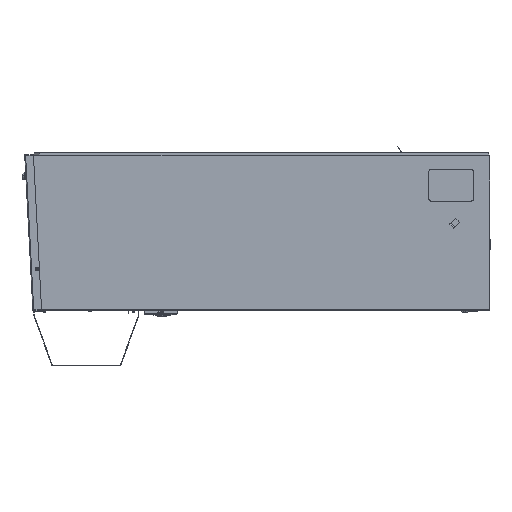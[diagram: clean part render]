
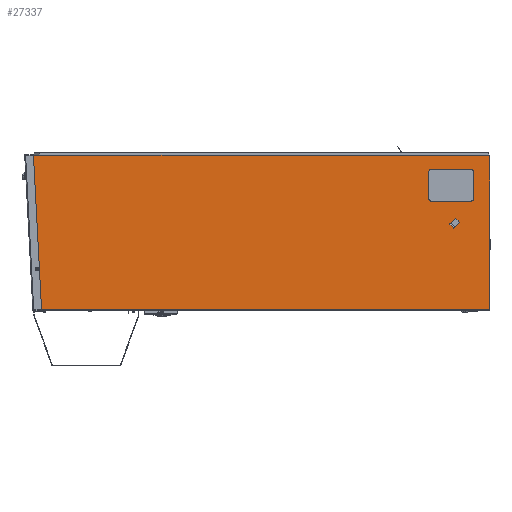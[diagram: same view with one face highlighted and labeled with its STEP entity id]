
A CAD part, left-side view. The second image highlights one B-rep face of the part: STEP entity #27337.
In plain terms, the highlighted planar face has unit normal (-1, 0, 0).
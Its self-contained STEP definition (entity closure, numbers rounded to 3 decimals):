
#3329 = CARTESIAN_POINT ( 'NONE',  ( -147.5, 83.029, 10.347 ) ) ;
#7016 = VERTEX_POINT ( 'NONE', #90252 ) ;
#8192 = VERTEX_POINT ( 'NONE', #53853 ) ;
#9562 = EDGE_CURVE ( 'NONE', #192417, #126941, #191556, .T. ) ;
#12247 = EDGE_LOOP ( 'NONE', ( #26375, #66929, #22883, #72787 ) ) ;
#16853 = LINE ( 'NONE', #82784, #118902 ) ;
#21643 = PLANE ( 'NONE',  #65993 ) ;
#21740 = CARTESIAN_POINT ( 'NONE',  ( -147.5, 3., 177.5 ) ) ;
#22681 = CARTESIAN_POINT ( 'NONE',  ( -147.5, 3., 175.5 ) ) ;
#22883 = ORIENTED_EDGE ( 'NONE', *, *, #37074, .F. ) ;
#23846 = VERTEX_POINT ( 'NONE', #81494 ) ;
#26375 = ORIENTED_EDGE ( 'NONE', *, *, #199465, .T. ) ;
#26581 = CARTESIAN_POINT ( 'NONE',  ( -147.5, 78.787, 32.551 ) ) ;
#27159 = CARTESIAN_POINT ( 'NONE',  ( -147.5, 1064.55, 176.448 ) ) ;
#27337 = ADVANCED_FACE ( 'NONE', ( #185958, #139423, #88651 ), #21643, .F. ) ;
#28797 = VECTOR ( 'NONE', #183216, 1000. ) ;
#28950 = EDGE_CURVE ( 'NONE', #98875, #8192, #126202, .T. ) ;
#31912 = DIRECTION ( 'NONE',  ( 0., 0., 1. ) ) ;
#32988 = LINE ( 'NONE', #165952, #126020 ) ;
#35704 = DIRECTION ( 'NONE',  ( 0., 0., -1. ) ) ;
#37074 = EDGE_CURVE ( 'NONE', #192417, #23846, #67557, .T. ) ;
#37519 = CARTESIAN_POINT ( 'NONE',  ( -147.5, 1040.373, -81.197 ) ) ;
#43238 = VECTOR ( 'NONE', #139085, 1000. ) ;
#48307 = VERTEX_POINT ( 'NONE', #37519 ) ;
#49699 = CIRCLE ( 'NONE', #170533, 3.05 ) ;
#51906 = CARTESIAN_POINT ( 'NONE',  ( -147.5, 1040.373, -84.247 ) ) ;
#53853 = CARTESIAN_POINT ( 'NONE',  ( -147.5, 1063.551, 177.5 ) ) ;
#54799 = CARTESIAN_POINT ( 'NONE',  ( -147.5, 1044.569, -204.808 ) ) ;
#60594 = EDGE_CURVE ( 'NONE', #87064, #48307, #190095, .T. ) ;
#63517 = VERTEX_POINT ( 'NONE', #26581 ) ;
#65993 = AXIS2_PLACEMENT_3D ( 'NONE', #153530, #136259, #154584 ) ;
#66362 = VERTEX_POINT ( 'NONE', #138048 ) ;
#66929 = ORIENTED_EDGE ( 'NONE', *, *, #86904, .T. ) ;
#67557 = LINE ( 'NONE', #115234, #28797 ) ;
#67976 = ORIENTED_EDGE ( 'NONE', *, *, #28950, .T. ) ;
#68928 = LINE ( 'NONE', #198715, #204382 ) ;
#71203 = CARTESIAN_POINT ( 'NONE',  ( -147.5, 74.297, 28.06 ) ) ;
#72787 = ORIENTED_EDGE ( 'NONE', *, *, #9562, .T. ) ;
#73393 = DIRECTION ( 'NONE',  ( -1., 0., 0. ) ) ;
#75871 = DIRECTION ( 'NONE',  ( 0., 0.707, 0.707 ) ) ;
#77088 = ORIENTED_EDGE ( 'NONE', *, *, #89077, .T. ) ;
#80018 = VECTOR ( 'NONE', #195319, 1000. ) ;
#81063 = ORIENTED_EDGE ( 'NONE', *, *, #132932, .F. ) ;
#81494 = CARTESIAN_POINT ( 'NONE',  ( -147.5, 69.806, 23.57 ) ) ;
#82784 = CARTESIAN_POINT ( 'NONE',  ( -147.5, 91.515, 19.823 ) ) ;
#86410 = LINE ( 'NONE', #71203, #180965 ) ;
#86904 = EDGE_CURVE ( 'NONE', #63517, #23846, #86410, .T. ) ;
#87064 = VERTEX_POINT ( 'NONE', #161661 ) ;
#88651 = FACE_BOUND ( 'NONE', #162720, .T. ) ;
#89077 = EDGE_CURVE ( 'NONE', #7016, #129696, #32988, .T. ) ;
#90004 = DIRECTION ( 'NONE',  ( 0., 0., -1. ) ) ;
#90252 = CARTESIAN_POINT ( 'NONE',  ( -147.5, 1., -176.636 ) ) ;
#91129 = EDGE_CURVE ( 'NONE', #129696, #98875, #135020, .T. ) ;
#96968 = AXIS2_PLACEMENT_3D ( 'NONE', #119332, #139734, #90004 ) ;
#98875 = VERTEX_POINT ( 'NONE', #21740 ) ;
#98975 = CARTESIAN_POINT ( 'NONE',  ( -147.5, 1063.551, 176.5 ) ) ;
#99304 = DIRECTION ( 'NONE',  ( 0., 1., 0. ) ) ;
#108397 = CARTESIAN_POINT ( 'NONE',  ( -147.5, 87.52, 14.837 ) ) ;
#111021 = DIRECTION ( 'NONE',  ( 0., -0.707, 0.707 ) ) ;
#115234 = CARTESIAN_POINT ( 'NONE',  ( -147.5, 82.534, 10.842 ) ) ;
#117925 = DIRECTION ( 'NONE',  ( 1., 0., 0. ) ) ;
#118902 = VECTOR ( 'NONE', #111021, 1000. ) ;
#119332 = CARTESIAN_POINT ( 'NONE',  ( -147.5, 1040.373, -84.247 ) ) ;
#120179 = ORIENTED_EDGE ( 'NONE', *, *, #141116, .F. ) ;
#121082 = DIRECTION ( 'NONE',  ( 0., 0., -1. ) ) ;
#124485 = AXIS2_PLACEMENT_3D ( 'NONE', #22681, #73393, #121082 ) ;
#126020 = VECTOR ( 'NONE', #31912, 1000. ) ;
#126202 = LINE ( 'NONE', #142405, #80018 ) ;
#126941 = VERTEX_POINT ( 'NONE', #195988 ) ;
#129696 = VERTEX_POINT ( 'NONE', #142419 ) ;
#131407 = DIRECTION ( 'NONE',  ( 0., 0., -1. ) ) ;
#132647 = AXIS2_PLACEMENT_3D ( 'NONE', #98975, #213539, #131407 ) ;
#132932 = EDGE_CURVE ( 'NONE', #7016, #66362, #68928, .T. ) ;
#135020 = CIRCLE ( 'NONE', #124485, 2. ) ;
#136259 = DIRECTION ( 'NONE',  ( 1., 0., 0. ) ) ;
#136728 = ORIENTED_EDGE ( 'NONE', *, *, #140117, .T. ) ;
#137195 = DIRECTION ( 'NONE',  ( 0., -0.707, -0.707 ) ) ;
#138048 = CARTESIAN_POINT ( 'NONE',  ( -147.5, 1046.045, -176.636 ) ) ;
#139085 = DIRECTION ( 'NONE',  ( 0., 0.052, 0.999 ) ) ;
#139423 = FACE_BOUND ( 'NONE', #12247, .T. ) ;
#139734 = DIRECTION ( 'NONE',  ( 1., 0., 0. ) ) ;
#140048 = VECTOR ( 'NONE', #75871, 1000. ) ;
#140117 = EDGE_CURVE ( 'NONE', #8192, #180718, #146457, .T. ) ;
#141116 = EDGE_CURVE ( 'NONE', #66362, #180718, #156364, .T. ) ;
#142405 = CARTESIAN_POINT ( 'NONE',  ( -147.5, 523.5, 177.5 ) ) ;
#142419 = CARTESIAN_POINT ( 'NONE',  ( -147.5, 1., 175.5 ) ) ;
#145090 = ORIENTED_EDGE ( 'NONE', *, *, #198917, .T. ) ;
#146457 = CIRCLE ( 'NONE', #132647, 1. ) ;
#153530 = CARTESIAN_POINT ( 'NONE',  ( -147.5, 523.5, -177.5 ) ) ;
#154584 = DIRECTION ( 'NONE',  ( 0., 0., -1. ) ) ;
#156364 = LINE ( 'NONE', #54799, #43238 ) ;
#161661 = CARTESIAN_POINT ( 'NONE',  ( -147.5, 1040.373, -87.297 ) ) ;
#162339 = ORIENTED_EDGE ( 'NONE', *, *, #60594, .T. ) ;
#162720 = EDGE_LOOP ( 'NONE', ( #162339, #145090 ) ) ;
#165952 = CARTESIAN_POINT ( 'NONE',  ( -147.5, 1., -177.5 ) ) ;
#170533 = AXIS2_PLACEMENT_3D ( 'NONE', #51906, #117925, #35704 ) ;
#171120 = EDGE_LOOP ( 'NONE', ( #67976, #136728, #120179, #81063, #77088, #184233 ) ) ;
#180718 = VERTEX_POINT ( 'NONE', #27159 ) ;
#180965 = VECTOR ( 'NONE', #137195, 1000. ) ;
#183216 = DIRECTION ( 'NONE',  ( 0., -0.707, 0.707 ) ) ;
#184233 = ORIENTED_EDGE ( 'NONE', *, *, #91129, .T. ) ;
#185958 = FACE_OUTER_BOUND ( 'NONE', #171120, .T. ) ;
#190095 = CIRCLE ( 'NONE', #96968, 3.05 ) ;
#191556 = LINE ( 'NONE', #108397, #140048 ) ;
#192417 = VERTEX_POINT ( 'NONE', #3329 ) ;
#195319 = DIRECTION ( 'NONE',  ( 0., 1., 0. ) ) ;
#195988 = CARTESIAN_POINT ( 'NONE',  ( -147.5, 92.01, 19.328 ) ) ;
#198715 = CARTESIAN_POINT ( 'NONE',  ( -147.5, 1046.045, -176.636 ) ) ;
#198917 = EDGE_CURVE ( 'NONE', #48307, #87064, #49699, .T. ) ;
#199465 = EDGE_CURVE ( 'NONE', #126941, #63517, #16853, .T. ) ;
#204382 = VECTOR ( 'NONE', #99304, 1000. ) ;
#213539 = DIRECTION ( 'NONE',  ( -1., 0., 0. ) ) ;
